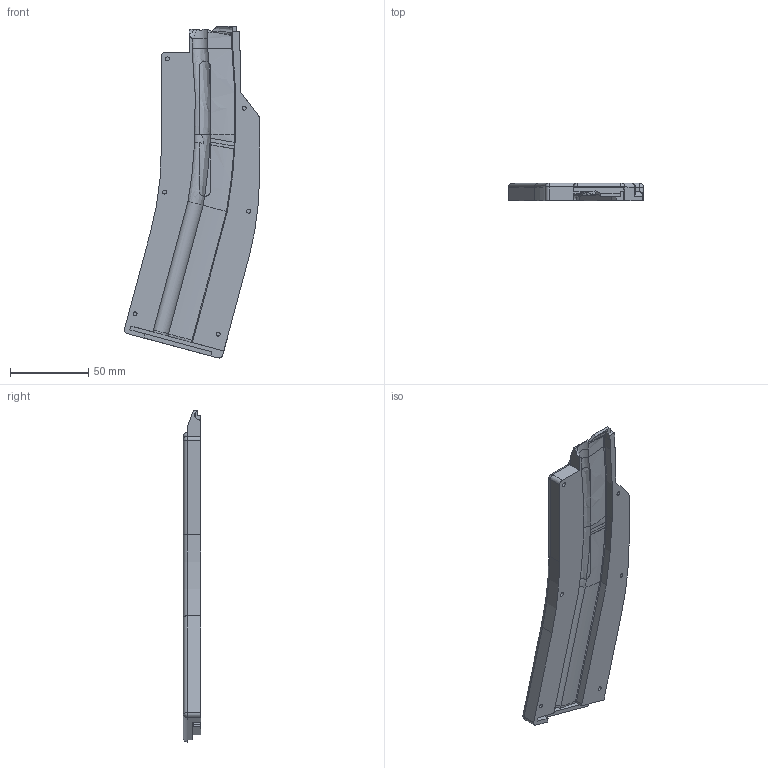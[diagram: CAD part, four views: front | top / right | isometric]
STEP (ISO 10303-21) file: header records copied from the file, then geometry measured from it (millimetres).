
FILE_DESCRIPTION(/* description */ (''),/* implementation_level */ '2;1');
FILE_NAME(/* name */ 'D:/CTRLPEW/Rifles/AR Mags and Mag Accessories/AR Magazines/S&W 15-22 25r Mags/S&W 15-22 Right Mag 25r.step',/* time_stamp */ '2021-03-05T21:53:45-07:00',/* author */ (''),/* organization */ (''),/* preprocessor_version */ 'ST-DEVELOPER v18.1',/* originating_system */ 'Autodesk Translation Framework v9.10.0.1330',/* authorisation */ '');
FILE_SCHEMA (('AUTOMOTIVE_DESIGN { 1 0 10303 214 3 1 1 }'));
Length unit declared in the file: millimetre
Products named in the file (1): 22 Mag
Bounding box: 86.24 x 11.15 x 211.97 mm (x, y, z)
Volume: 107508.6 mm3; surface area: 32074.2 mm2
Topology: 1 solids, 1 shells, 167 faces, 414 edges, 253 vertices
Faces by surface type: plane 68, bspline 50, cylinder 41, sphere 6, torus 2
Full cylindrical faces by diameter (mm): 2.5 x6
Entity records: 6477 total; most frequent: CARTESIAN_POINT 2760, ORIENTED_EDGE 824, DIRECTION 673, EDGE_CURVE 412, VERTEX_POINT 253, AXIS2_PLACEMENT_3D 250, EDGE_LOOP 173, LINE 173
